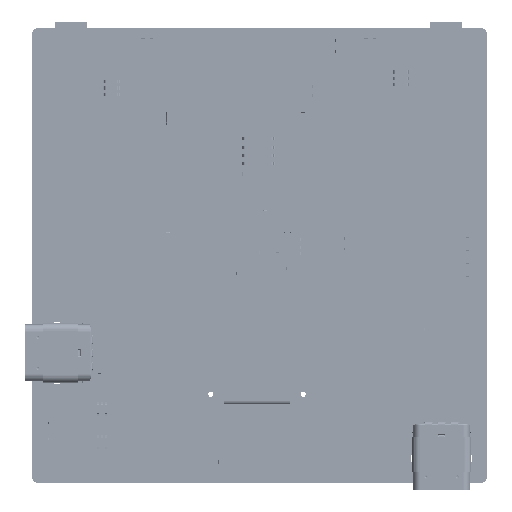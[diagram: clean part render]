
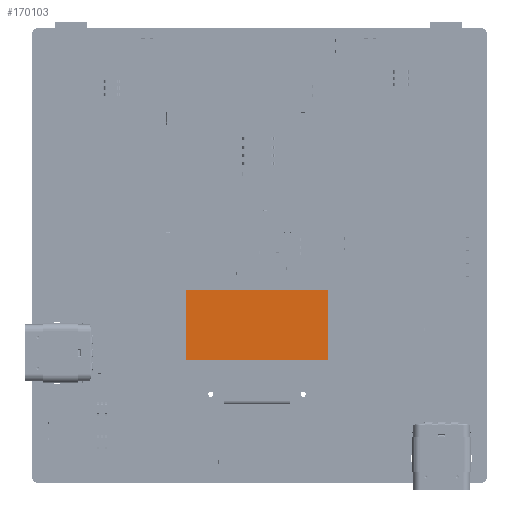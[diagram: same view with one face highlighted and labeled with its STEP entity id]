
A CAD part, top view. The second image highlights one B-rep face of the part: STEP entity #170103.
In plain terms, the highlighted planar face has unit normal (0, 0, 1).
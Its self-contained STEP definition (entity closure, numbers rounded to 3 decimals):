
#170012 = VERTEX_POINT('',#170013);
#170013 = CARTESIAN_POINT('',(35.375,17.7,1.41)
  );
#170021 = VERTEX_POINT('',#170022);
#170022 = CARTESIAN_POINT('',(35.375,6.825,1.41)
  );
#170028 = EDGE_CURVE('',#170021,#170012,#170029,.T.);
#170029 = LINE('',#170030,#170031);
#170030 = CARTESIAN_POINT('',(35.375,6.825,1.41)
  );
#170031 = VECTOR('',#170032,1.);
#170032 = DIRECTION('',(0.,1.,-0.));
#170043 = VERTEX_POINT('',#170044);
#170044 = CARTESIAN_POINT('',(57.125,17.7,1.41)
  );
#170052 = EDGE_CURVE('',#170012,#170043,#170053,.T.);
#170053 = LINE('',#170054,#170055);
#170054 = CARTESIAN_POINT('',(35.375,17.7,1.41)
  );
#170055 = VECTOR('',#170056,1.);
#170056 = DIRECTION('',(1.,0.,-0.));
#170067 = VERTEX_POINT('',#170068);
#170068 = CARTESIAN_POINT('',(57.125,6.825,1.41)
  );
#170076 = EDGE_CURVE('',#170043,#170067,#170077,.T.);
#170077 = LINE('',#170078,#170079);
#170078 = CARTESIAN_POINT('',(57.125,17.7,1.41)
  );
#170079 = VECTOR('',#170080,1.);
#170080 = DIRECTION('',(0.,-1.,-0.));
#170093 = EDGE_CURVE('',#170067,#170021,#170094,.T.);
#170094 = LINE('',#170095,#170096);
#170095 = CARTESIAN_POINT('',(57.125,6.825,1.41)
  );
#170096 = VECTOR('',#170097,1.);
#170097 = DIRECTION('',(-1.,-0.,-0.));
#170103 = ADVANCED_FACE('',(#170104),#170110,.T.);
#170104 = FACE_BOUND('',#170105,.T.);
#170105 = EDGE_LOOP('',(#170106,#170107,#170108,#170109));
#170106 = ORIENTED_EDGE('',*,*,#170052,.F.);
#170107 = ORIENTED_EDGE('',*,*,#170028,.F.);
#170108 = ORIENTED_EDGE('',*,*,#170093,.F.);
#170109 = ORIENTED_EDGE('',*,*,#170076,.F.);
#170110 = PLANE('',#170111);
#170111 = AXIS2_PLACEMENT_3D('',#170112,#170113,#170114);
#170112 = CARTESIAN_POINT('',(35.375,6.825,1.41)
  );
#170113 = DIRECTION('',(0.,0.,1.));
#170114 = DIRECTION('',(1.,0.,-0.));
